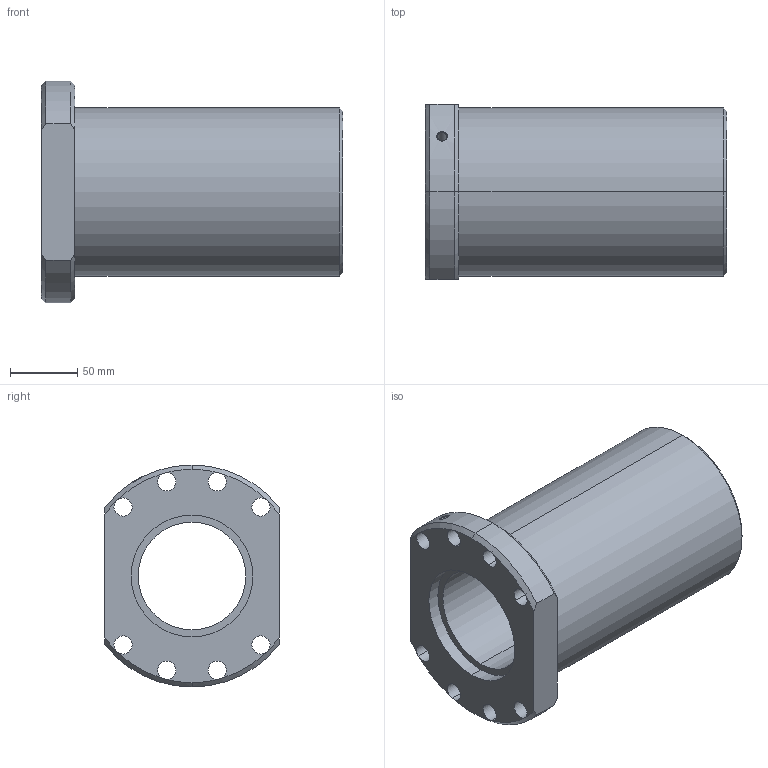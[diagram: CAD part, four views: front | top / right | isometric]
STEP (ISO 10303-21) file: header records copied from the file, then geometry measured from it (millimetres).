
FILE_DESCRIPTION(('starvars output'),'2;1');
FILE_NAME('cv20161005063407000009574.stp','06:34:08 2016/10/05',( 'Thomas Industrial Network Germany GmbH'),( 'Thomas Industrial Network Germany GmbH'),'unknown preprocess','ACIS' ,'unknown authorization');
FILE_SCHEMA(('AUTOMOTIVE_DESIGN_CC2 {UNKNOWN IMPLEMENTATION LEVEL}'));
Length unit declared in the file: millimetre
Products named in the file (1): PRODUCT_ID_2
Bounding box: 224 x 130 x 165 mm (x, y, z)
Volume: 1729759.2 mm3; surface area: 180137.3 mm2
Topology: 1 solids, 1 shells, 52 faces, 174 edges, 112 vertices
Faces by surface type: cylinder 32, cone 12, plane 8
Entity records: 2147 total; most frequent: CARTESIAN_POINT 436, ORIENTED_EDGE 348, EDGE_CURVE 174, DIRECTION 162, VERTEX_POINT 112, AXIS2_PLACEMENT_3D 59, EDGE_LOOP 58, FACE_BOUND 58
